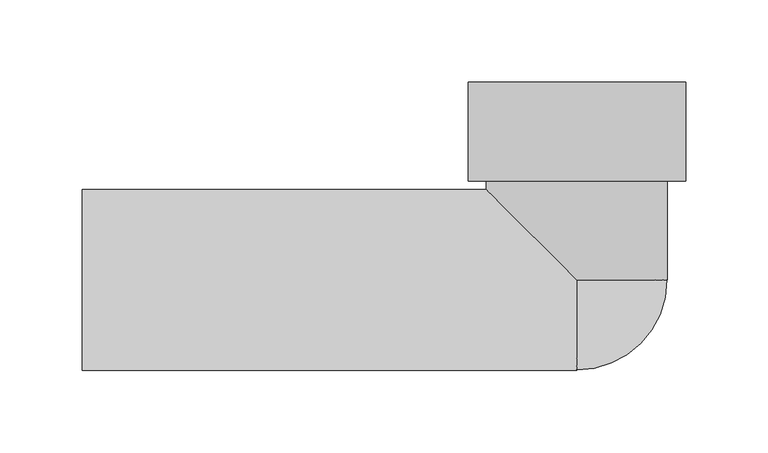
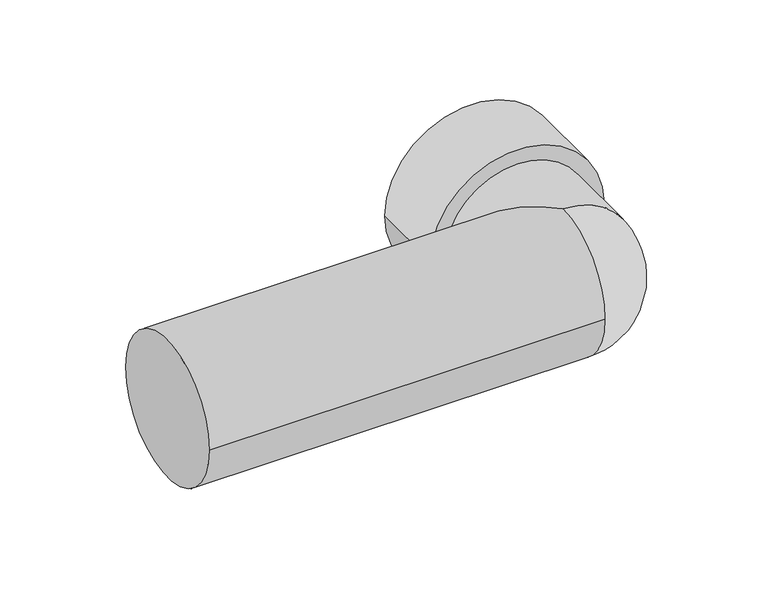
"""IFC4 building model written with IfcOpenShell, lengths in millimetres: pipe fitting geometry, NLRS_52_PIF_UN_PE aansluitbocht 88,5° voor staande wc_geb : DN90-100 / ø90-110."""

from ifc_helpers import new_model, si_unit, point, frame, origin, origin_2d, place, context, project, spatial, circle_curve, ellipse_curve, trimmed, segment, composite_curve, outline, extrude, source, transform, mapped, element, save
from ifc_brep_helpers import plane_surface, cylinder_surface, revolved_surface, advanced_brep


def pipe_fitting_539533b1(model_context):
    return source(origin(), model_context, "Body", "SolidModel", [
        extrude(outline(composite_curve([segment(trimmed(circle_curve(origin_2d(), 66.0), [point((0.0, 66.0))], [point((0.0, -66.0))], False, "CARTESIAN"), True, "CONTINUOUS"), segment(trimmed(circle_curve(origin_2d(), 66.0), [point((0.0, -66.0))], [point((0.0, 66.0))], False, "CARTESIAN"), True, "CONTINUOUS")], self_intersect=False)), frame((0.0, 60.0, 0.0), z_axis=(0.0, 1.0, 0.0), x_axis=(0.0, 0.0, 1.0)), (0.0, 0.0, 1.0), 60.0),
        advanced_brep(
        [(55.0, 60.0, 0.0), (-55.0, 60.0, 0.0), (-55.0, 55.0, 0.0), (0.0, 0.0, 55.0), (55.0, 0.0, 0.0), (0.0, 0.0, -55.0), (-300.0, -55.0, 0.0), (-300.0, 55.0, 0.0), (0.0, -55.0, 0.0)],
        [
            (0, 1, circle_curve(frame((0.0, 60.0, 0.0), z_axis=(0.0, 1.0, 0.0), x_axis=(-1.0, 0.0, 0.0)), 55.0)),
            (1, 0, circle_curve(frame((0.0, 60.0, 0.0), z_axis=(0.0, 1.0, 0.0), x_axis=(-1.0, 0.0, 0.0)), 55.0)),
            (1, 2),
            (2, 3, ellipse_curve(frame((0.0, 0.0, 0.0), z_axis=(0.7071067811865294, 0.7071067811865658, 0.0), x_axis=(0.7071067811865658, -0.7071067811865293, 0.0)), 77.7817459, 55.0)),
            (3, 4, circle_curve(frame((0.0, 0.0, 0.0), z_axis=(0.0, 1.0, 0.0), x_axis=(-1.0, 0.0, 0.0)), 55.0)),
            (4, 0),
            (4, 5, circle_curve(frame((0.0, 0.0, 0.0), z_axis=(0.0, 1.0, 0.0), x_axis=(-1.0, 0.0, 0.0)), 55.0)),
            (5, 2, ellipse_curve(frame((0.0, 0.0, 0.0), z_axis=(0.7071067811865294, 0.7071067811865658, 0.0), x_axis=(0.7071067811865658, -0.7071067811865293, 0.0)), 77.7817459, 55.0)),
            (6, 7, circle_curve(frame((-300.0, 0.0, 0.0), z_axis=(-1.0, 0.0, 0.0), x_axis=(0.0, 1.0, 0.0)), 55.0)),
            (7, 6, circle_curve(frame((-300.0, 0.0, 0.0), z_axis=(-1.0, 0.0, 0.0), x_axis=(0.0, 1.0, 0.0)), 55.0)),
            (7, 2),
            (5, 8, circle_curve(frame((0.0, 0.0, 0.0), z_axis=(-1.0, 0.0, 0.0), x_axis=(0.0, 1.0, 0.0)), 55.0)),
            (8, 6),
            (8, 3, circle_curve(frame((0.0, 0.0, 0.0), z_axis=(-1.0, 0.0, 0.0), x_axis=(0.0, 1.0, 0.0)), 55.0)),
        ],
        [
            plane_surface(frame((0.0, 60.0, 0.0), z_axis=(0.0, 1.0, 0.0), x_axis=(0.0, 0.0, 1.0))),
            cylinder_surface(frame((0.0, 0.0, 0.0), z_axis=(0.0, -1.0, 0.0), x_axis=(-1.0, 0.0, 0.0)), 55.0),
            plane_surface(frame((-300.0, 55.0, 0.0), z_axis=(-1.0, 0.0, 0.0), x_axis=(0.0, 0.0, -1.0))),
            cylinder_surface(frame((-300.0, 0.0, 0.0), z_axis=(1.0, 0.0, 0.0), x_axis=(0.0, 1.0, 0.0)), 55.0),
            revolved_surface(trimmed(ellipse_curve(frame((0.0, 0.0, 0.0), z_axis=(1.0, 0.0, 0.0), x_axis=(0.0, 1.0, 0.0)), 55.0, 55.0), [point((0.0, 0.0, 55.0))], [point((0.0, 0.0, -55.0))], True, "CARTESIAN"), (0.0, 0.0, 295.0), (0.0, 0.0, -1.0)),
        ],
        [
            (0, [[1, 2]]),
            (1, [[-2, 3, 4, 5, 6]]),
            (1, [[-1, -6, 7, 8, -3]]),
            (2, [[9, 10]]),
            (3, [[-10, 11, -8, 12, 13]]),
            (3, [[-9, -13, 14, -4, -11]]),
            (4, [[-5, -14, -12, -7]]),
        ],
    ),
    ])


if __name__ == "__main__":
    model = new_model("IFC4")
    model_context = context("Model", 3, world=origin())
    ifc_project = project(units=[si_unit("LENGTHUNIT", "METRE", prefix="MILLI")], contexts=[model_context])
    site = spatial("IfcSite", under=ifc_project)
    building = spatial("IfcBuilding", under=site)
    placement = place(None, origin())
    pipe_fitting_shape = pipe_fitting_539533b1(model_context)
    element("IfcPipeFitting", 1, ObjectType="NLRS_52_PIF_UN_PE aansluitbocht 88,5° voor staande wc_geb : DN90-100 / ø90-110", at=placement, inside=building, context=model_context, shape_type="MappedRepresentation", body=[
        mapped(pipe_fitting_shape, transform((0.0, 0.0, 0.0), x_axis=(1.0, 0.0, 0.0), y_axis=(0.0, 1.0, 0.0), z_axis=(0.0, 0.0, 1.0))),
    ])
    save(model, "model.ifc")
